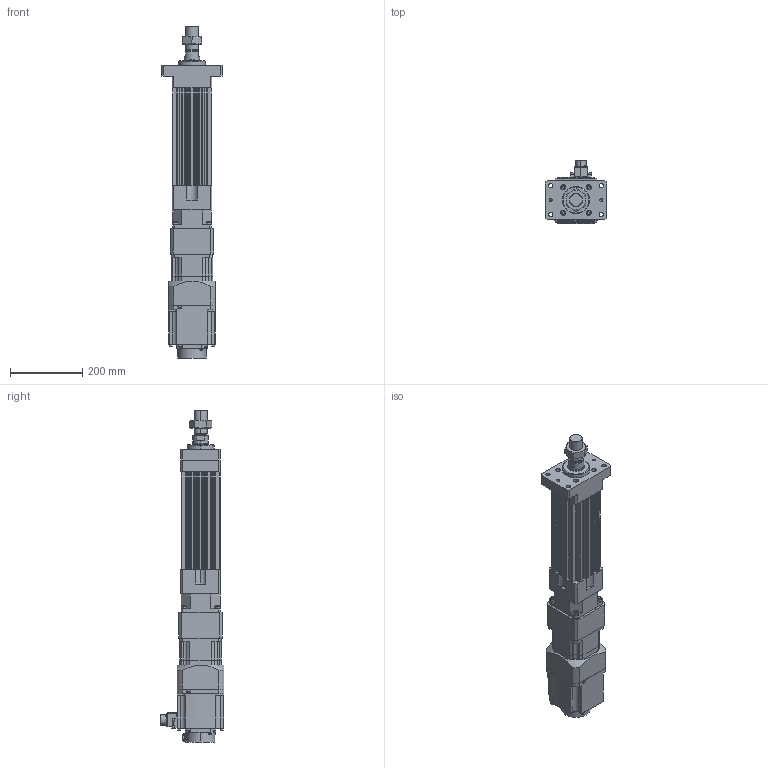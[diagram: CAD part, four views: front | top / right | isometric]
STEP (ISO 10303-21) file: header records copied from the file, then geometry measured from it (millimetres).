
FILE_DESCRIPTION (( 'STEP AP203' ), '1' );
FILE_NAME ('HES110NS(HS)-S100-W015G00-M-FM.STEP', '2023-01-28T05:59:13', ( 'tms' ), ( '' ), 'SwSTEP 2.0', 'SolidWorks 2013', '' );
FILE_SCHEMA (( 'CONFIG_CONTROL_DESIGN' ));
Length unit declared in the file: millimetre
Products named in the file (8): HES110-S100-G120-FM; AB1151; HG-SR152; AB115-003[HG-SR152]; HES110 ROD M ST100; P0401400706; HES110NS(HS)-S100-W015G00-M-FM; M36X1.5P
Assembly tree (7 placements, depth 3):
  HES110NS(HS)-S100-W015G00-M-FM
    HES110-S100-G120-FM
    HES110 ROD M ST100
    M36X1.5P
    AB115-003[HG-SR152]
      AB1151
      P0401400706
    HG-SR152
Bounding box: 170 x 177.49 x 921.5 mm (x, y, z)
Volume: 6104987.6 mm3; surface area: 797059.5 mm2
Topology: 4 solids, 15 shells, 1170 faces, 2958 edges, 1925 vertices
Faces by surface type: plane 559, cylinder 525, cone 74, bspline 8, torus 4
Entity records: 36974 total; most frequent: CARTESIAN_POINT 7028, DIRECTION 6389, ORIENTED_EDGE 5864, EDGE_CURVE 2942, AXIS2_PLACEMENT_3D 2346, VERTEX_POINT 1925, LINE 1697, VECTOR 1697
